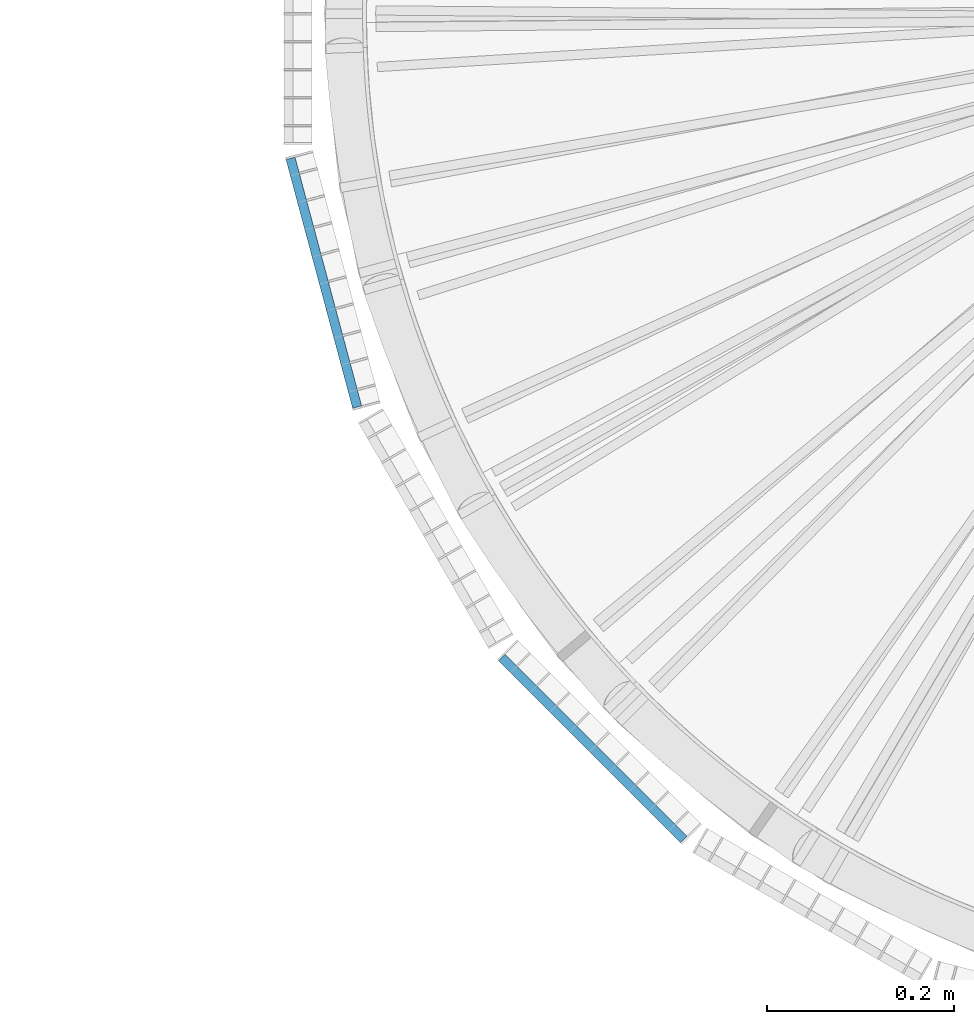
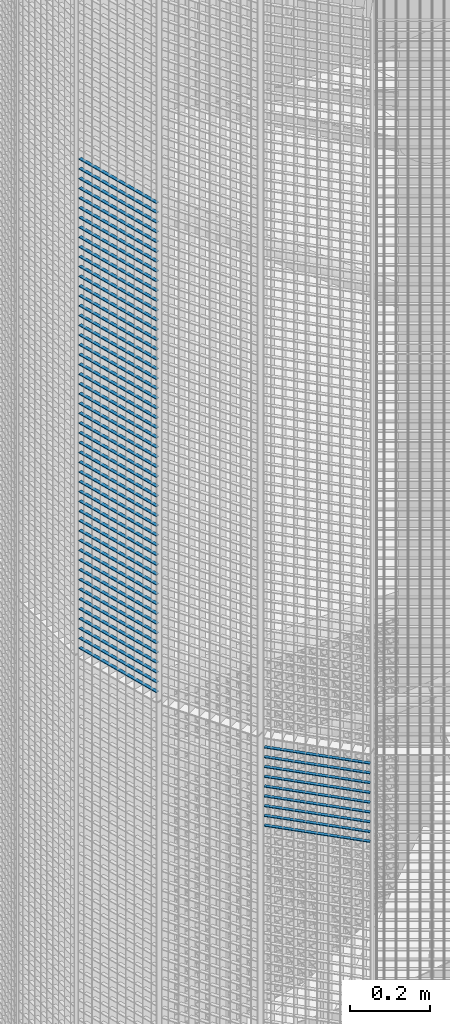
# One storey, part 117 of 1148: 60 beams, 2 elements without a shape of their own.
"""IFC2X3 building model written with IfcOpenShell, lengths in millimetres."""

from ifc_helpers import new_model, si_unit, frame, origin_with_axes, origin_2d_with_axis, place, context, subcontext, project, spatial, rectangle, extrude, material, type_object, element, aggregate, save


model = new_model("IFC2X3")

# Units and contexts
model_context = context("Model", 3, precision=1e-05, world=origin_with_axes())
body_context = subcontext(model_context, "Body", "Model", "MODEL_VIEW")
ifc_project = project(units=[si_unit("LENGTHUNIT", "METRE", prefix="MILLI"), si_unit("AREAUNIT", "SQUARE_METRE"), si_unit("VOLUMEUNIT", "CUBIC_METRE"), si_unit("MASSUNIT", "GRAM", prefix="KILO"), si_unit("TIMEUNIT", "SECOND"), si_unit("PLANEANGLEUNIT", "RADIAN"), si_unit("SOLIDANGLEUNIT", "STERADIAN"), si_unit("THERMODYNAMICTEMPERATUREUNIT", "DEGREE_CELSIUS"), si_unit("LUMINOUSINTENSITYUNIT", "LUMEN")], contexts=[model_context])

# Site, building, storey
site_placement = place(None, origin_with_axes())
site = spatial("IfcSite", under=ifc_project, at=site_placement, Name="Undefined", CompositionType="ELEMENT")
building_placement = place(site_placement, origin_with_axes())
building = spatial("IfcBuilding", under=site, at=building_placement, Name="Undefined", CompositionType="ELEMENT")
storey_placement = place(building_placement, origin_with_axes())
storey = spatial("IfcBuildingStorey", under=building, at=storey_placement, Name="Undefined", CompositionType="ELEMENT", Elevation=0.0)

# Assembly, beams
assembly_1_placement = place(storey_placement, origin_with_axes())
assembly_1 = element("IfcElementAssembly", 1, at=assembly_1_placement, inside=storey, Name="BORDURE", AssemblyPlace="NOTDEFINED", PredefinedType="NOTDEFINED")
ifc_material = material(Name="STEEL/S235JR")
beam_type = type_object("IfcBeamType", Name="PL2*10", PredefinedType="NOTDEFINED")
beam_1_placement = place(assembly_1_placement, frame((-1111.25508286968, -154.895926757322, 10530.0), z_axis=(-0.965925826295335, -0.258819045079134, 0.0), x_axis=(0.258819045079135, -0.965925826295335, 0.0)))
beam_1 = element("IfcBeam", 2, at=beam_1_placement, type_object=beam_type, material=ifc_material, Name="ENTRETOISE", context=body_context, shape_type="SweptSolid", body=[
    extrude(rectangle(XDim=2.0, YDim=10.0, at=origin_2d_with_axis()), frame((275.999999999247, 9.09494701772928e-13, 1.53210777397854e-14), z_axis=(-1.0, 0.0, 0.0), x_axis=(0.0, -1.0, 0.0)), (0.0, 0.0, 1.0), 276.0),
])
beam_2_placement = place(assembly_1_placement, frame((-1111.25508286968, -154.895926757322, 10500.0), z_axis=(-0.965925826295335, -0.258819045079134, 0.0), x_axis=(0.258819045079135, -0.965925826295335, 0.0)))
beam_2 = element("IfcBeam", 3, at=beam_2_placement, type_object=beam_type, material=ifc_material, Name="ENTRETOISE", context=body_context, shape_type="SweptSolid", body=[
    extrude(rectangle(XDim=2.0, YDim=10.0, at=origin_2d_with_axis()), frame((275.999999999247, 9.09494701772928e-13, 1.53210777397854e-14), z_axis=(-1.0, 0.0, 0.0), x_axis=(0.0, -1.0, 0.0)), (0.0, 0.0, 1.0), 276.0),
])
beam_3_placement = place(assembly_1_placement, frame((-1111.25508286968, -154.895926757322, 10470.0), z_axis=(-0.965925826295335, -0.258819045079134, 0.0), x_axis=(0.258819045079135, -0.965925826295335, 0.0)))
beam_3 = element("IfcBeam", 4, at=beam_3_placement, type_object=beam_type, material=ifc_material, Name="ENTRETOISE", context=body_context, shape_type="SweptSolid", body=[
    extrude(rectangle(XDim=2.0, YDim=10.0, at=origin_2d_with_axis()), frame((275.999999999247, 9.09494701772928e-13, 1.53210777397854e-14), z_axis=(-1.0, 0.0, 0.0), x_axis=(0.0, -1.0, 0.0)), (0.0, 0.0, 1.0), 276.0),
])
beam_4_placement = place(assembly_1_placement, frame((-1111.25508286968, -154.895926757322, 10440.0), z_axis=(-0.965925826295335, -0.258819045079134, 0.0), x_axis=(0.258819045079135, -0.965925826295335, 0.0)))
beam_4 = element("IfcBeam", 5, at=beam_4_placement, type_object=beam_type, material=ifc_material, Name="ENTRETOISE", context=body_context, shape_type="SweptSolid", body=[
    extrude(rectangle(XDim=2.0, YDim=10.0, at=origin_2d_with_axis()), frame((275.999999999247, 9.09494701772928e-13, 1.53210777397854e-14), z_axis=(-1.0, 0.0, 0.0), x_axis=(0.0, -1.0, 0.0)), (0.0, 0.0, 1.0), 276.0),
])
beam_5_placement = place(assembly_1_placement, frame((-1111.25508286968, -154.895926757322, 10410.0), z_axis=(-0.965925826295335, -0.258819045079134, 0.0), x_axis=(0.258819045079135, -0.965925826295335, 0.0)))
beam_5 = element("IfcBeam", 6, at=beam_5_placement, type_object=beam_type, material=ifc_material, Name="ENTRETOISE", context=body_context, shape_type="SweptSolid", body=[
    extrude(rectangle(XDim=2.0, YDim=10.0, at=origin_2d_with_axis()), frame((275.999999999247, 9.09494701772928e-13, 1.53210777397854e-14), z_axis=(-1.0, 0.0, 0.0), x_axis=(0.0, -1.0, 0.0)), (0.0, 0.0, 1.0), 276.0),
])
beam_6_placement = place(assembly_1_placement, frame((-1111.25508286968, -154.895926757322, 10380.0), z_axis=(-0.965925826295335, -0.258819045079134, 0.0), x_axis=(0.258819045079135, -0.965925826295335, 0.0)))
beam_6 = element("IfcBeam", 7, at=beam_6_placement, type_object=beam_type, material=ifc_material, Name="ENTRETOISE", context=body_context, shape_type="SweptSolid", body=[
    extrude(rectangle(XDim=2.0, YDim=10.0, at=origin_2d_with_axis()), frame((275.999999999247, 9.09494701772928e-13, 1.53210777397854e-14), z_axis=(-1.0, 0.0, 0.0), x_axis=(0.0, -1.0, 0.0)), (0.0, 0.0, 1.0), 276.0),
])
beam_7_placement = place(assembly_1_placement, frame((-1111.25508286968, -154.895926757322, 10350.0), z_axis=(-0.965925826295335, -0.258819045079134, 0.0), x_axis=(0.258819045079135, -0.965925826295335, 0.0)))
beam_7 = element("IfcBeam", 8, at=beam_7_placement, type_object=beam_type, material=ifc_material, Name="ENTRETOISE", context=body_context, shape_type="SweptSolid", body=[
    extrude(rectangle(XDim=2.0, YDim=10.0, at=origin_2d_with_axis()), frame((275.999999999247, 9.09494701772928e-13, 1.53210777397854e-14), z_axis=(-1.0, 0.0, 0.0), x_axis=(0.0, -1.0, 0.0)), (0.0, 0.0, 1.0), 276.0),
])
beam_8_placement = place(assembly_1_placement, frame((-1111.25508286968, -154.895926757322, 10320.0), z_axis=(-0.965925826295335, -0.258819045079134, 0.0), x_axis=(0.258819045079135, -0.965925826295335, 0.0)))
beam_8 = element("IfcBeam", 9, at=beam_8_placement, type_object=beam_type, material=ifc_material, Name="ENTRETOISE", context=body_context, shape_type="SweptSolid", body=[
    extrude(rectangle(XDim=2.0, YDim=10.0, at=origin_2d_with_axis()), frame((275.999999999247, 9.09494701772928e-13, 1.53210777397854e-14), z_axis=(-1.0, 0.0, 0.0), x_axis=(0.0, -1.0, 0.0)), (0.0, 0.0, 1.0), 276.0),
])
beam_9_placement = place(assembly_1_placement, frame((-1111.25508286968, -154.895926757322, 10290.0), z_axis=(-0.965925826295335, -0.258819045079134, 0.0), x_axis=(0.258819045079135, -0.965925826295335, 0.0)))
beam_9 = element("IfcBeam", 10, at=beam_9_placement, type_object=beam_type, material=ifc_material, Name="ENTRETOISE", context=body_context, shape_type="SweptSolid", body=[
    extrude(rectangle(XDim=2.0, YDim=10.0, at=origin_2d_with_axis()), frame((275.999999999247, 9.09494701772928e-13, 1.53210777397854e-14), z_axis=(-1.0, 0.0, 0.0), x_axis=(0.0, -1.0, 0.0)), (0.0, 0.0, 1.0), 276.0),
])
beam_10_placement = place(assembly_1_placement, frame((-1111.25508286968, -154.895926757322, 10260.0), z_axis=(-0.965925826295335, -0.258819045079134, 0.0), x_axis=(0.258819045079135, -0.965925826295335, 0.0)))
beam_10 = element("IfcBeam", 11, at=beam_10_placement, type_object=beam_type, material=ifc_material, Name="ENTRETOISE", context=body_context, shape_type="SweptSolid", body=[
    extrude(rectangle(XDim=2.0, YDim=10.0, at=origin_2d_with_axis()), frame((275.999999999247, 9.09494701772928e-13, 1.53210777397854e-14), z_axis=(-1.0, 0.0, 0.0), x_axis=(0.0, -1.0, 0.0)), (0.0, 0.0, 1.0), 276.0),
])
beam_11_placement = place(assembly_1_placement, frame((-1111.25508286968, -154.895926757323, 10230.0), z_axis=(-0.965925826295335, -0.258819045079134, 0.0), x_axis=(0.258819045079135, -0.965925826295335, 0.0)))
beam_11 = element("IfcBeam", 12, at=beam_11_placement, type_object=beam_type, material=ifc_material, Name="ENTRETOISE", context=body_context, shape_type="SweptSolid", body=[
    extrude(rectangle(XDim=2.0, YDim=10.0, at=origin_2d_with_axis()), frame((275.999999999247, 9.09494701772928e-13, 1.53210777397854e-14), z_axis=(-1.0, 0.0, 0.0), x_axis=(0.0, -1.0, 0.0)), (0.0, 0.0, 1.0), 276.0),
])
beam_12_placement = place(assembly_1_placement, frame((-1111.25508286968, -154.895926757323, 10200.0), z_axis=(-0.965925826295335, -0.258819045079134, 0.0), x_axis=(0.258819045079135, -0.965925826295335, 0.0)))
beam_12 = element("IfcBeam", 13, at=beam_12_placement, type_object=beam_type, material=ifc_material, Name="ENTRETOISE", context=body_context, shape_type="SweptSolid", body=[
    extrude(rectangle(XDim=2.0, YDim=10.0, at=origin_2d_with_axis()), frame((275.999999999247, 9.09494701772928e-13, 1.53210777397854e-14), z_axis=(-1.0, 0.0, 0.0), x_axis=(0.0, -1.0, 0.0)), (0.0, 0.0, 1.0), 276.0),
])
beam_13_placement = place(assembly_1_placement, frame((-1111.25508286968, -154.895926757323, 10170.0), z_axis=(-0.965925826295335, -0.258819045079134, 0.0), x_axis=(0.258819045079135, -0.965925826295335, 0.0)))
beam_13 = element("IfcBeam", 14, at=beam_13_placement, type_object=beam_type, material=ifc_material, Name="ENTRETOISE", context=body_context, shape_type="SweptSolid", body=[
    extrude(rectangle(XDim=2.0, YDim=10.0, at=origin_2d_with_axis()), frame((275.999999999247, 9.09494701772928e-13, 1.53210777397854e-14), z_axis=(-1.0, 0.0, 0.0), x_axis=(0.0, -1.0, 0.0)), (0.0, 0.0, 1.0), 276.0),
])
beam_14_placement = place(assembly_1_placement, frame((-1111.25508286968, -154.895926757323, 10140.0), z_axis=(-0.965925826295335, -0.258819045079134, 0.0), x_axis=(0.258819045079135, -0.965925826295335, 0.0)))
beam_14 = element("IfcBeam", 15, at=beam_14_placement, type_object=beam_type, material=ifc_material, Name="ENTRETOISE", context=body_context, shape_type="SweptSolid", body=[
    extrude(rectangle(XDim=2.0, YDim=10.0, at=origin_2d_with_axis()), frame((275.999999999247, 9.09494701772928e-13, 1.53210777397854e-14), z_axis=(-1.0, 0.0, 0.0), x_axis=(0.0, -1.0, 0.0)), (0.0, 0.0, 1.0), 276.0),
])
beam_15_placement = place(assembly_1_placement, frame((-1111.25508286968, -154.895926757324, 9720.0), z_axis=(-0.965925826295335, -0.258819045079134, 0.0), x_axis=(0.258819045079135, -0.965925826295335, 0.0)))
beam_15 = element("IfcBeam", 16, at=beam_15_placement, type_object=beam_type, material=ifc_material, Name="ENTRETOISE", context=body_context, shape_type="SweptSolid", body=[
    extrude(rectangle(XDim=2.0, YDim=10.0, at=origin_2d_with_axis()), frame((275.999999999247, 9.09494701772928e-13, 1.53210777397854e-14), z_axis=(-1.0, 0.0, 0.0), x_axis=(0.0, -1.0, 0.0)), (0.0, 0.0, 1.0), 276.0),
])
beam_16_placement = place(assembly_1_placement, frame((-1111.25508286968, -154.895926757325, 9690.0), z_axis=(-0.965925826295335, -0.258819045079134, 0.0), x_axis=(0.258819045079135, -0.965925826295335, 0.0)))
beam_16 = element("IfcBeam", 17, at=beam_16_placement, type_object=beam_type, material=ifc_material, Name="ENTRETOISE", context=body_context, shape_type="SweptSolid", body=[
    extrude(rectangle(XDim=2.0, YDim=10.0, at=origin_2d_with_axis()), frame((275.999999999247, 9.09494701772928e-13, 1.53210777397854e-14), z_axis=(-1.0, 0.0, 0.0), x_axis=(0.0, -1.0, 0.0)), (0.0, 0.0, 1.0), 276.0),
])
beam_17_placement = place(assembly_1_placement, frame((-1111.25508286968, -154.895926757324, 9750.0), z_axis=(-0.965925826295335, -0.258819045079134, 0.0), x_axis=(0.258819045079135, -0.965925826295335, 0.0)))
beam_17 = element("IfcBeam", 18, at=beam_17_placement, type_object=beam_type, material=ifc_material, Name="ENTRETOISE", context=body_context, shape_type="SweptSolid", body=[
    extrude(rectangle(XDim=2.0, YDim=10.0, at=origin_2d_with_axis()), frame((275.999999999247, 9.09494701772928e-13, 1.53210777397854e-14), z_axis=(-1.0, 0.0, 0.0), x_axis=(0.0, -1.0, 0.0)), (0.0, 0.0, 1.0), 276.0),
])
beam_18_placement = place(assembly_1_placement, frame((-1111.25508286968, -154.895926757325, 9660.0), z_axis=(-0.965925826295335, -0.258819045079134, 0.0), x_axis=(0.258819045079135, -0.965925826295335, 0.0)))
beam_18 = element("IfcBeam", 19, at=beam_18_placement, type_object=beam_type, material=ifc_material, Name="ENTRETOISE", context=body_context, shape_type="SweptSolid", body=[
    extrude(rectangle(XDim=2.0, YDim=10.0, at=origin_2d_with_axis()), frame((275.999999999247, 9.09494701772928e-13, 1.53210777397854e-14), z_axis=(-1.0, 0.0, 0.0), x_axis=(0.0, -1.0, 0.0)), (0.0, 0.0, 1.0), 276.0),
])
beam_19_placement = place(assembly_1_placement, frame((-1111.25508286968, -154.895926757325, 9630.0), z_axis=(-0.965925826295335, -0.258819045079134, 0.0), x_axis=(0.258819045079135, -0.965925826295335, 0.0)))
beam_19 = element("IfcBeam", 20, at=beam_19_placement, type_object=beam_type, material=ifc_material, Name="ENTRETOISE", context=body_context, shape_type="SweptSolid", body=[
    extrude(rectangle(XDim=2.0, YDim=10.0, at=origin_2d_with_axis()), frame((275.999999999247, 9.09494701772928e-13, 1.53210777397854e-14), z_axis=(-1.0, 0.0, 0.0), x_axis=(0.0, -1.0, 0.0)), (0.0, 0.0, 1.0), 276.0),
])
beam_20_placement = place(assembly_1_placement, frame((-1111.25508286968, -154.895926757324, 9780.0), z_axis=(-0.965925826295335, -0.258819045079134, 0.0), x_axis=(0.258819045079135, -0.965925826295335, 0.0)))
beam_20 = element("IfcBeam", 21, at=beam_20_placement, type_object=beam_type, material=ifc_material, Name="ENTRETOISE", context=body_context, shape_type="SweptSolid", body=[
    extrude(rectangle(XDim=2.0, YDim=10.0, at=origin_2d_with_axis()), frame((275.999999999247, 9.09494701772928e-13, 1.53210777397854e-14), z_axis=(-1.0, 0.0, 0.0), x_axis=(0.0, -1.0, 0.0)), (0.0, 0.0, 1.0), 276.0),
])
beam_21_placement = place(assembly_1_placement, frame((-1111.25508286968, -154.895926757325, 9600.0), z_axis=(-0.965925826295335, -0.258819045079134, 0.0), x_axis=(0.258819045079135, -0.965925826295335, 0.0)))
beam_21 = element("IfcBeam", 22, at=beam_21_placement, type_object=beam_type, material=ifc_material, Name="ENTRETOISE", context=body_context, shape_type="SweptSolid", body=[
    extrude(rectangle(XDim=2.0, YDim=10.0, at=origin_2d_with_axis()), frame((275.999999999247, 9.09494701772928e-13, 1.53210777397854e-14), z_axis=(-1.0, 0.0, 0.0), x_axis=(0.0, -1.0, 0.0)), (0.0, 0.0, 1.0), 276.0),
])
beam_22_placement = place(assembly_1_placement, frame((-1111.25508286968, -154.895926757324, 9810.0), z_axis=(-0.965925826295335, -0.258819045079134, 0.0), x_axis=(0.258819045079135, -0.965925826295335, 0.0)))
beam_22 = element("IfcBeam", 23, at=beam_22_placement, type_object=beam_type, material=ifc_material, Name="ENTRETOISE", context=body_context, shape_type="SweptSolid", body=[
    extrude(rectangle(XDim=2.0, YDim=10.0, at=origin_2d_with_axis()), frame((275.999999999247, 9.09494701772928e-13, 1.53210777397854e-14), z_axis=(-1.0, 0.0, 0.0), x_axis=(0.0, -1.0, 0.0)), (0.0, 0.0, 1.0), 276.0),
])
beam_23_placement = place(assembly_1_placement, frame((-1111.25508286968, -154.895926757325, 9570.0), z_axis=(-0.965925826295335, -0.258819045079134, 0.0), x_axis=(0.258819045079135, -0.965925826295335, 0.0)))
beam_23 = element("IfcBeam", 24, at=beam_23_placement, type_object=beam_type, material=ifc_material, Name="ENTRETOISE", context=body_context, shape_type="SweptSolid", body=[
    extrude(rectangle(XDim=2.0, YDim=10.0, at=origin_2d_with_axis()), frame((275.999999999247, 9.09494701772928e-13, 1.53210777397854e-14), z_axis=(-1.0, 0.0, 0.0), x_axis=(0.0, -1.0, 0.0)), (0.0, 0.0, 1.0), 276.0),
])
beam_24_placement = place(assembly_1_placement, frame((-1111.25508286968, -154.895926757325, 9540.0), z_axis=(-0.965925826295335, -0.258819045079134, 0.0), x_axis=(0.258819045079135, -0.965925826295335, 0.0)))
beam_24 = element("IfcBeam", 25, at=beam_24_placement, type_object=beam_type, material=ifc_material, Name="ENTRETOISE", context=body_context, shape_type="SweptSolid", body=[
    extrude(rectangle(XDim=2.0, YDim=10.0, at=origin_2d_with_axis()), frame((275.999999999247, 9.09494701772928e-13, 1.53210777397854e-14), z_axis=(-1.0, 0.0, 0.0), x_axis=(0.0, -1.0, 0.0)), (0.0, 0.0, 1.0), 276.0),
])
beam_25_placement = place(assembly_1_placement, frame((-1111.25508286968, -154.895926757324, 9840.0), z_axis=(-0.965925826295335, -0.258819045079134, 0.0), x_axis=(0.258819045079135, -0.965925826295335, 0.0)))
beam_25 = element("IfcBeam", 26, at=beam_25_placement, type_object=beam_type, material=ifc_material, Name="ENTRETOISE", context=body_context, shape_type="SweptSolid", body=[
    extrude(rectangle(XDim=2.0, YDim=10.0, at=origin_2d_with_axis()), frame((275.999999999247, 9.09494701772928e-13, 1.53210777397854e-14), z_axis=(-1.0, 0.0, 0.0), x_axis=(0.0, -1.0, 0.0)), (0.0, 0.0, 1.0), 276.0),
])
beam_26_placement = place(assembly_1_placement, frame((-1111.25508286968, -154.895926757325, 9510.0), z_axis=(-0.965925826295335, -0.258819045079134, 0.0), x_axis=(0.258819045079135, -0.965925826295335, 0.0)))
beam_26 = element("IfcBeam", 27, at=beam_26_placement, type_object=beam_type, material=ifc_material, Name="ENTRETOISE", context=body_context, shape_type="SweptSolid", body=[
    extrude(rectangle(XDim=2.0, YDim=10.0, at=origin_2d_with_axis()), frame((275.999999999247, 9.09494701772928e-13, 1.53210777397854e-14), z_axis=(-1.0, 0.0, 0.0), x_axis=(0.0, -1.0, 0.0)), (0.0, 0.0, 1.0), 276.0),
])
beam_27_placement = place(assembly_1_placement, frame((-1111.25508286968, -154.895926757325, 9480.0), z_axis=(-0.965925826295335, -0.258819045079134, 0.0), x_axis=(0.258819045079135, -0.965925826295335, 0.0)))
beam_27 = element("IfcBeam", 28, at=beam_27_placement, type_object=beam_type, material=ifc_material, Name="ENTRETOISE", context=body_context, shape_type="SweptSolid", body=[
    extrude(rectangle(XDim=2.0, YDim=10.0, at=origin_2d_with_axis()), frame((275.999999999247, 9.09494701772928e-13, 1.53210777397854e-14), z_axis=(-1.0, 0.0, 0.0), x_axis=(0.0, -1.0, 0.0)), (0.0, 0.0, 1.0), 276.0),
])
beam_28_placement = place(assembly_1_placement, frame((-1111.25508286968, -154.895926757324, 9870.0), z_axis=(-0.965925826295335, -0.258819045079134, 0.0), x_axis=(0.258819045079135, -0.965925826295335, 0.0)))
beam_28 = element("IfcBeam", 29, at=beam_28_placement, type_object=beam_type, material=ifc_material, Name="ENTRETOISE", context=body_context, shape_type="SweptSolid", body=[
    extrude(rectangle(XDim=2.0, YDim=10.0, at=origin_2d_with_axis()), frame((275.999999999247, 9.09494701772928e-13, 1.53210777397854e-14), z_axis=(-1.0, 0.0, 0.0), x_axis=(0.0, -1.0, 0.0)), (0.0, 0.0, 1.0), 276.0),
])
beam_29_placement = place(assembly_1_placement, frame((-1111.25508286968, -154.895926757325, 9450.0), z_axis=(-0.965925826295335, -0.258819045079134, 0.0), x_axis=(0.258819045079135, -0.965925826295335, 0.0)))
beam_29 = element("IfcBeam", 30, at=beam_29_placement, type_object=beam_type, material=ifc_material, Name="ENTRETOISE", context=body_context, shape_type="SweptSolid", body=[
    extrude(rectangle(XDim=2.0, YDim=10.0, at=origin_2d_with_axis()), frame((275.999999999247, 9.09494701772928e-13, 1.53210777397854e-14), z_axis=(-1.0, 0.0, 0.0), x_axis=(0.0, -1.0, 0.0)), (0.0, 0.0, 1.0), 276.0),
])
beam_30_placement = place(assembly_1_placement, frame((-1111.25508286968, -154.895926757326, 9420.0), z_axis=(-0.965925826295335, -0.258819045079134, 0.0), x_axis=(0.258819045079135, -0.965925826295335, 0.0)))
beam_30 = element("IfcBeam", 31, at=beam_30_placement, type_object=beam_type, material=ifc_material, Name="ENTRETOISE", context=body_context, shape_type="SweptSolid", body=[
    extrude(rectangle(XDim=2.0, YDim=10.0, at=origin_2d_with_axis()), frame((275.999999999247, 9.09494701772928e-13, 1.53210777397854e-14), z_axis=(-1.0, 0.0, 0.0), x_axis=(0.0, -1.0, 0.0)), (0.0, 0.0, 1.0), 276.0),
])
beam_31_placement = place(assembly_1_placement, frame((-1111.25508286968, -154.895926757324, 9900.0), z_axis=(-0.965925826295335, -0.258819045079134, 0.0), x_axis=(0.258819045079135, -0.965925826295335, 0.0)))
beam_31 = element("IfcBeam", 32, at=beam_31_placement, type_object=beam_type, material=ifc_material, Name="ENTRETOISE", context=body_context, shape_type="SweptSolid", body=[
    extrude(rectangle(XDim=2.0, YDim=10.0, at=origin_2d_with_axis()), frame((275.999999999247, 9.09494701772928e-13, 1.53210777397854e-14), z_axis=(-1.0, 0.0, 0.0), x_axis=(0.0, -1.0, 0.0)), (0.0, 0.0, 1.0), 276.0),
])
beam_32_placement = place(assembly_1_placement, frame((-1111.25508286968, -154.895926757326, 9390.0), z_axis=(-0.965925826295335, -0.258819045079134, 0.0), x_axis=(0.258819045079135, -0.965925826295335, 0.0)))
beam_32 = element("IfcBeam", 33, at=beam_32_placement, type_object=beam_type, material=ifc_material, Name="ENTRETOISE", context=body_context, shape_type="SweptSolid", body=[
    extrude(rectangle(XDim=2.0, YDim=10.0, at=origin_2d_with_axis()), frame((275.999999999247, 9.09494701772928e-13, 1.53210777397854e-14), z_axis=(-1.0, 0.0, 0.0), x_axis=(0.0, -1.0, 0.0)), (0.0, 0.0, 1.0), 276.0),
])
beam_33_placement = place(assembly_1_placement, frame((-1111.25508286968, -154.895926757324, 9930.0), z_axis=(-0.965925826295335, -0.258819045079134, 0.0), x_axis=(0.258819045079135, -0.965925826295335, 0.0)))
beam_33 = element("IfcBeam", 34, at=beam_33_placement, type_object=beam_type, material=ifc_material, Name="ENTRETOISE", context=body_context, shape_type="SweptSolid", body=[
    extrude(rectangle(XDim=2.0, YDim=10.0, at=origin_2d_with_axis()), frame((275.999999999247, 9.09494701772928e-13, 1.53210777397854e-14), z_axis=(-1.0, 0.0, 0.0), x_axis=(0.0, -1.0, 0.0)), (0.0, 0.0, 1.0), 276.0),
])
beam_34_placement = place(assembly_1_placement, frame((-1111.25508286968, -154.895926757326, 9360.0), z_axis=(-0.965925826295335, -0.258819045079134, 0.0), x_axis=(0.258819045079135, -0.965925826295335, 0.0)))
beam_34 = element("IfcBeam", 35, at=beam_34_placement, type_object=beam_type, material=ifc_material, Name="ENTRETOISE", context=body_context, shape_type="SweptSolid", body=[
    extrude(rectangle(XDim=2.0, YDim=10.0, at=origin_2d_with_axis()), frame((275.999999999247, 9.09494701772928e-13, 1.53210777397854e-14), z_axis=(-1.0, 0.0, 0.0), x_axis=(0.0, -1.0, 0.0)), (0.0, 0.0, 1.0), 276.0),
])
beam_35_placement = place(assembly_1_placement, frame((-1111.25508286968, -154.895926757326, 9330.0), z_axis=(-0.965925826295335, -0.258819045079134, 0.0), x_axis=(0.258819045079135, -0.965925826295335, 0.0)))
beam_35 = element("IfcBeam", 36, at=beam_35_placement, type_object=beam_type, material=ifc_material, Name="ENTRETOISE", context=body_context, shape_type="SweptSolid", body=[
    extrude(rectangle(XDim=2.0, YDim=10.0, at=origin_2d_with_axis()), frame((275.999999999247, 9.09494701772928e-13, 1.53210777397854e-14), z_axis=(-1.0, 0.0, 0.0), x_axis=(0.0, -1.0, 0.0)), (0.0, 0.0, 1.0), 276.0),
])
beam_36_placement = place(assembly_1_placement, frame((-1111.25508286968, -154.895926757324, 9960.0), z_axis=(-0.965925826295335, -0.258819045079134, 0.0), x_axis=(0.258819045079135, -0.965925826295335, 0.0)))
beam_36 = element("IfcBeam", 37, at=beam_36_placement, type_object=beam_type, material=ifc_material, Name="ENTRETOISE", context=body_context, shape_type="SweptSolid", body=[
    extrude(rectangle(XDim=2.0, YDim=10.0, at=origin_2d_with_axis()), frame((275.999999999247, 9.09494701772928e-13, 1.53210777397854e-14), z_axis=(-1.0, 0.0, 0.0), x_axis=(0.0, -1.0, 0.0)), (0.0, 0.0, 1.0), 276.0),
])
beam_37_placement = place(assembly_1_placement, frame((-1111.25508286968, -154.895926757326, 9300.0), z_axis=(-0.965925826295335, -0.258819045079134, 0.0), x_axis=(0.258819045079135, -0.965925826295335, 0.0)))
beam_37 = element("IfcBeam", 38, at=beam_37_placement, type_object=beam_type, material=ifc_material, Name="ENTRETOISE", context=body_context, shape_type="SweptSolid", body=[
    extrude(rectangle(XDim=2.0, YDim=10.0, at=origin_2d_with_axis()), frame((275.999999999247, 9.09494701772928e-13, 1.53210777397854e-14), z_axis=(-1.0, 0.0, 0.0), x_axis=(0.0, -1.0, 0.0)), (0.0, 0.0, 1.0), 276.0),
])
beam_38_placement = place(assembly_1_placement, frame((-1111.25508286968, -154.895926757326, 9270.0), z_axis=(-0.965925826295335, -0.258819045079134, 0.0), x_axis=(0.258819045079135, -0.965925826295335, 0.0)))
beam_38 = element("IfcBeam", 39, at=beam_38_placement, type_object=beam_type, material=ifc_material, Name="ENTRETOISE", context=body_context, shape_type="SweptSolid", body=[
    extrude(rectangle(XDim=2.0, YDim=10.0, at=origin_2d_with_axis()), frame((275.999999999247, 9.09494701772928e-13, 1.53210777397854e-14), z_axis=(-1.0, 0.0, 0.0), x_axis=(0.0, -1.0, 0.0)), (0.0, 0.0, 1.0), 276.0),
])
beam_39_placement = place(assembly_1_placement, frame((-1111.25508286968, -154.895926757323, 9990.0), z_axis=(-0.965925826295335, -0.258819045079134, 0.0), x_axis=(0.258819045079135, -0.965925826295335, 0.0)))
beam_39 = element("IfcBeam", 40, at=beam_39_placement, type_object=beam_type, material=ifc_material, Name="ENTRETOISE", context=body_context, shape_type="SweptSolid", body=[
    extrude(rectangle(XDim=2.0, YDim=10.0, at=origin_2d_with_axis()), frame((275.999999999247, 9.09494701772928e-13, 1.53210777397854e-14), z_axis=(-1.0, 0.0, 0.0), x_axis=(0.0, -1.0, 0.0)), (0.0, 0.0, 1.0), 276.0),
])
beam_40_placement = place(assembly_1_placement, frame((-1111.25508286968, -154.895926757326, 9240.0), z_axis=(-0.965925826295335, -0.258819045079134, 0.0), x_axis=(0.258819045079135, -0.965925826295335, 0.0)))
beam_40 = element("IfcBeam", 41, at=beam_40_placement, type_object=beam_type, material=ifc_material, Name="ENTRETOISE", context=body_context, shape_type="SweptSolid", body=[
    extrude(rectangle(XDim=2.0, YDim=10.0, at=origin_2d_with_axis()), frame((275.999999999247, 9.09494701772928e-13, 1.53210777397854e-14), z_axis=(-1.0, 0.0, 0.0), x_axis=(0.0, -1.0, 0.0)), (0.0, 0.0, 1.0), 276.0),
])
beam_41_placement = place(assembly_1_placement, frame((-1111.25508286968, -154.895926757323, 10020.0), z_axis=(-0.965925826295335, -0.258819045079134, 0.0), x_axis=(0.258819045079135, -0.965925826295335, 0.0)))
beam_41 = element("IfcBeam", 42, at=beam_41_placement, type_object=beam_type, material=ifc_material, Name="ENTRETOISE", context=body_context, shape_type="SweptSolid", body=[
    extrude(rectangle(XDim=2.0, YDim=10.0, at=origin_2d_with_axis()), frame((275.999999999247, 9.09494701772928e-13, 1.53210777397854e-14), z_axis=(-1.0, 0.0, 0.0), x_axis=(0.0, -1.0, 0.0)), (0.0, 0.0, 1.0), 276.0),
])
beam_42_placement = place(assembly_1_placement, frame((-1111.25508286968, -154.895926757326, 9210.0), z_axis=(-0.965925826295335, -0.258819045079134, 0.0), x_axis=(0.258819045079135, -0.965925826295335, 0.0)))
beam_42 = element("IfcBeam", 43, at=beam_42_placement, type_object=beam_type, material=ifc_material, Name="ENTRETOISE", context=body_context, shape_type="SweptSolid", body=[
    extrude(rectangle(XDim=2.0, YDim=10.0, at=origin_2d_with_axis()), frame((275.999999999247, 9.09494701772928e-13, 1.53210777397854e-14), z_axis=(-1.0, 0.0, 0.0), x_axis=(0.0, -1.0, 0.0)), (0.0, 0.0, 1.0), 276.0),
])
beam_43_placement = place(assembly_1_placement, frame((-1111.25508286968, -154.895926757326, 9180.0), z_axis=(-0.965925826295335, -0.258819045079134, 0.0), x_axis=(0.258819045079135, -0.965925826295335, 0.0)))
beam_43 = element("IfcBeam", 44, at=beam_43_placement, type_object=beam_type, material=ifc_material, Name="ENTRETOISE", context=body_context, shape_type="SweptSolid", body=[
    extrude(rectangle(XDim=2.0, YDim=10.0, at=origin_2d_with_axis()), frame((275.999999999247, 9.09494701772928e-13, 1.53210777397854e-14), z_axis=(-1.0, 0.0, 0.0), x_axis=(0.0, -1.0, 0.0)), (0.0, 0.0, 1.0), 276.0),
])
beam_44_placement = place(assembly_1_placement, frame((-1111.25508286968, -154.895926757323, 10050.0), z_axis=(-0.965925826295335, -0.258819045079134, 0.0), x_axis=(0.258819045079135, -0.965925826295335, 0.0)))
beam_44 = element("IfcBeam", 45, at=beam_44_placement, type_object=beam_type, material=ifc_material, Name="ENTRETOISE", context=body_context, shape_type="SweptSolid", body=[
    extrude(rectangle(XDim=2.0, YDim=10.0, at=origin_2d_with_axis()), frame((275.999999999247, 9.09494701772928e-13, 1.53210777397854e-14), z_axis=(-1.0, 0.0, 0.0), x_axis=(0.0, -1.0, 0.0)), (0.0, 0.0, 1.0), 276.0),
])
beam_45_placement = place(assembly_1_placement, frame((-1111.25508286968, -154.895926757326, 9150.0), z_axis=(-0.965925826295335, -0.258819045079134, 0.0), x_axis=(0.258819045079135, -0.965925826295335, 0.0)))
beam_45 = element("IfcBeam", 46, at=beam_45_placement, type_object=beam_type, material=ifc_material, Name="ENTRETOISE", context=body_context, shape_type="SweptSolid", body=[
    extrude(rectangle(XDim=2.0, YDim=10.0, at=origin_2d_with_axis()), frame((275.999999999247, 9.09494701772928e-13, 1.53210777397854e-14), z_axis=(-1.0, 0.0, 0.0), x_axis=(0.0, -1.0, 0.0)), (0.0, 0.0, 1.0), 276.0),
])
beam_46_placement = place(assembly_1_placement, frame((-1111.25508286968, -154.895926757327, 9120.0), z_axis=(-0.965925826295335, -0.258819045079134, 0.0), x_axis=(0.258819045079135, -0.965925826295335, 0.0)))
beam_46 = element("IfcBeam", 47, at=beam_46_placement, type_object=beam_type, material=ifc_material, Name="ENTRETOISE", context=body_context, shape_type="SweptSolid", body=[
    extrude(rectangle(XDim=2.0, YDim=10.0, at=origin_2d_with_axis()), frame((275.999999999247, 9.09494701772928e-13, 1.53210777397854e-14), z_axis=(-1.0, 0.0, 0.0), x_axis=(0.0, -1.0, 0.0)), (0.0, 0.0, 1.0), 276.0),
])
beam_47_placement = place(assembly_1_placement, frame((-1111.25508286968, -154.895926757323, 10080.0), z_axis=(-0.965925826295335, -0.258819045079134, 0.0), x_axis=(0.258819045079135, -0.965925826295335, 0.0)))
beam_47 = element("IfcBeam", 48, at=beam_47_placement, type_object=beam_type, material=ifc_material, Name="ENTRETOISE", context=body_context, shape_type="SweptSolid", body=[
    extrude(rectangle(XDim=2.0, YDim=10.0, at=origin_2d_with_axis()), frame((275.999999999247, 9.09494701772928e-13, 1.53210777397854e-14), z_axis=(-1.0, 0.0, 0.0), x_axis=(0.0, -1.0, 0.0)), (0.0, 0.0, 1.0), 276.0),
])
beam_48_placement = place(assembly_1_placement, frame((-1111.25508286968, -154.895926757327, 9090.0), z_axis=(-0.965925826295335, -0.258819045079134, 0.0), x_axis=(0.258819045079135, -0.965925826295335, 0.0)))
beam_48 = element("IfcBeam", 49, at=beam_48_placement, type_object=beam_type, material=ifc_material, Name="ENTRETOISE", context=body_context, shape_type="SweptSolid", body=[
    extrude(rectangle(XDim=2.0, YDim=10.0, at=origin_2d_with_axis()), frame((275.999999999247, 9.09494701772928e-13, 1.53210777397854e-14), z_axis=(-1.0, 0.0, 0.0), x_axis=(0.0, -1.0, 0.0)), (0.0, 0.0, 1.0), 276.0),
])
beam_49_placement = place(assembly_1_placement, frame((-1111.25508286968, -154.895926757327, 9060.0), z_axis=(-0.965925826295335, -0.258819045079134, 0.0), x_axis=(0.258819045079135, -0.965925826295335, 0.0)))
beam_49 = element("IfcBeam", 50, at=beam_49_placement, type_object=beam_type, material=ifc_material, Name="ENTRETOISE", context=body_context, shape_type="SweptSolid", body=[
    extrude(rectangle(XDim=2.0, YDim=10.0, at=origin_2d_with_axis()), frame((275.999999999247, 9.09494701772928e-13, 1.53210777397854e-14), z_axis=(-1.0, 0.0, 0.0), x_axis=(0.0, -1.0, 0.0)), (0.0, 0.0, 1.0), 276.0),
])
beam_50_placement = place(assembly_1_placement, frame((-1111.25508286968, -154.895926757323, 10110.0), z_axis=(-0.965925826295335, -0.258819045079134, 0.0), x_axis=(0.258819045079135, -0.965925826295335, 0.0)))
beam_50 = element("IfcBeam", 51, at=beam_50_placement, type_object=beam_type, material=ifc_material, Name="ENTRETOISE", context=body_context, shape_type="SweptSolid", body=[
    extrude(rectangle(XDim=2.0, YDim=10.0, at=origin_2d_with_axis()), frame((275.999999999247, 9.09494701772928e-13, 1.53210777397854e-14), z_axis=(-1.0, 0.0, 0.0), x_axis=(0.0, -1.0, 0.0)), (0.0, 0.0, 1.0), 276.0),
])
beam_51_placement = place(assembly_1_placement, frame((-1111.25508286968, -154.895926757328, 9030.0), z_axis=(-0.965925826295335, -0.258819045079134, 0.0), x_axis=(0.258819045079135, -0.965925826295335, 0.0)))
beam_51 = element("IfcBeam", 52, at=beam_51_placement, type_object=beam_type, material=ifc_material, Name="ENTRETOISE", context=body_context, shape_type="SweptSolid", body=[
    extrude(rectangle(XDim=2.0, YDim=10.0, at=origin_2d_with_axis()), frame((275.999999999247, 9.09494701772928e-13, 1.53210777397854e-14), z_axis=(-1.0, 0.0, 0.0), x_axis=(0.0, -1.0, 0.0)), (0.0, 0.0, 1.0), 276.0),
])
aggregate(assembly_1, [beam_1, beam_2, beam_3, beam_4, beam_5, beam_6, beam_7, beam_8, beam_9, beam_10, beam_11, beam_12, beam_13, beam_14, beam_15, beam_16, beam_17, beam_18, beam_19, beam_20, beam_21, beam_22, beam_23, beam_24, beam_25, beam_26, beam_27, beam_28, beam_29, beam_30, beam_31, beam_32, beam_33, beam_34, beam_35, beam_36, beam_37, beam_38, beam_39, beam_40, beam_41, beam_42, beam_43, beam_44, beam_45, beam_46, beam_47, beam_48, beam_49, beam_50, beam_51])

assembly_2_placement = place(storey_placement, origin_with_axes())
assembly_2 = element("IfcElementAssembly", 53, at=assembly_2_placement, inside=storey, Name="BORDURE", AssemblyPlace="NOTDEFINED", PredefinedType="NOTDEFINED")
beam_52_placement = place(assembly_2_placement, frame((-884.927168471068, -689.771348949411, 8970.0), z_axis=(-0.70710678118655, -0.707106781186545, 0.0), x_axis=(0.707106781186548, -0.707106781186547, 0.0)))
beam_52 = element("IfcBeam", 54, at=beam_52_placement, type_object=beam_type, material=ifc_material, Name="ENTRETOISE", context=body_context, shape_type="SweptSolid", body=[
    extrude(rectangle(XDim=2.0, YDim=10.0, at=origin_2d_with_axis()), frame((275.999999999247, 9.09494701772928e-13, 1.53210777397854e-14), z_axis=(-1.0, 0.0, 0.0), x_axis=(0.0, -1.0, 0.0)), (0.0, 0.0, 1.0), 276.0),
])
beam_53_placement = place(assembly_2_placement, frame((-884.927168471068, -689.771348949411, 8940.0), z_axis=(-0.70710678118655, -0.707106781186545, 0.0), x_axis=(0.707106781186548, -0.707106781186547, 0.0)))
beam_53 = element("IfcBeam", 55, at=beam_53_placement, type_object=beam_type, material=ifc_material, Name="ENTRETOISE", context=body_context, shape_type="SweptSolid", body=[
    extrude(rectangle(XDim=2.0, YDim=10.0, at=origin_2d_with_axis()), frame((275.999999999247, 9.09494701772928e-13, 1.53210777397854e-14), z_axis=(-1.0, 0.0, 0.0), x_axis=(0.0, -1.0, 0.0)), (0.0, 0.0, 1.0), 276.0),
])
beam_54_placement = place(assembly_2_placement, frame((-884.927168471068, -689.771348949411, 8910.0), z_axis=(-0.70710678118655, -0.707106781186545, 0.0), x_axis=(0.707106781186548, -0.707106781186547, 0.0)))
beam_54 = element("IfcBeam", 56, at=beam_54_placement, type_object=beam_type, material=ifc_material, Name="ENTRETOISE", context=body_context, shape_type="SweptSolid", body=[
    extrude(rectangle(XDim=2.0, YDim=10.0, at=origin_2d_with_axis()), frame((275.999999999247, 9.09494701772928e-13, 1.53210777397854e-14), z_axis=(-1.0, 0.0, 0.0), x_axis=(0.0, -1.0, 0.0)), (0.0, 0.0, 1.0), 276.0),
])
beam_55_placement = place(assembly_2_placement, frame((-884.927168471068, -689.771348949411, 8880.0), z_axis=(-0.70710678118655, -0.707106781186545, 0.0), x_axis=(0.707106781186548, -0.707106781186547, 0.0)))
beam_55 = element("IfcBeam", 57, at=beam_55_placement, type_object=beam_type, material=ifc_material, Name="ENTRETOISE", context=body_context, shape_type="SweptSolid", body=[
    extrude(rectangle(XDim=2.0, YDim=10.0, at=origin_2d_with_axis()), frame((275.999999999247, 9.09494701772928e-13, 1.53210777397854e-14), z_axis=(-1.0, 0.0, 0.0), x_axis=(0.0, -1.0, 0.0)), (0.0, 0.0, 1.0), 276.0),
])
beam_56_placement = place(assembly_2_placement, frame((-884.927168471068, -689.771348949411, 8850.0), z_axis=(-0.70710678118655, -0.707106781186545, 0.0), x_axis=(0.707106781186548, -0.707106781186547, 0.0)))
beam_56 = element("IfcBeam", 58, at=beam_56_placement, type_object=beam_type, material=ifc_material, Name="ENTRETOISE", context=body_context, shape_type="SweptSolid", body=[
    extrude(rectangle(XDim=2.0, YDim=10.0, at=origin_2d_with_axis()), frame((275.999999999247, 9.09494701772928e-13, 1.53210777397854e-14), z_axis=(-1.0, 0.0, 0.0), x_axis=(0.0, -1.0, 0.0)), (0.0, 0.0, 1.0), 276.0),
])
beam_57_placement = place(assembly_2_placement, frame((-884.927168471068, -689.771348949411, 8820.0), z_axis=(-0.70710678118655, -0.707106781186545, 0.0), x_axis=(0.707106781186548, -0.707106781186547, 0.0)))
beam_57 = element("IfcBeam", 59, at=beam_57_placement, type_object=beam_type, material=ifc_material, Name="ENTRETOISE", context=body_context, shape_type="SweptSolid", body=[
    extrude(rectangle(XDim=2.0, YDim=10.0, at=origin_2d_with_axis()), frame((275.999999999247, 9.09494701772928e-13, 1.53210777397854e-14), z_axis=(-1.0, 0.0, 0.0), x_axis=(0.0, -1.0, 0.0)), (0.0, 0.0, 1.0), 276.0),
])
beam_58_placement = place(assembly_2_placement, frame((-884.927168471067, -689.771348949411, 8790.0), z_axis=(-0.70710678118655, -0.707106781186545, 0.0), x_axis=(0.707106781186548, -0.707106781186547, 0.0)))
beam_58 = element("IfcBeam", 60, at=beam_58_placement, type_object=beam_type, material=ifc_material, Name="ENTRETOISE", context=body_context, shape_type="SweptSolid", body=[
    extrude(rectangle(XDim=2.0, YDim=10.0, at=origin_2d_with_axis()), frame((275.999999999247, 9.09494701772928e-13, 1.53210777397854e-14), z_axis=(-1.0, 0.0, 0.0), x_axis=(0.0, -1.0, 0.0)), (0.0, 0.0, 1.0), 276.0),
])
beam_59_placement = place(assembly_2_placement, frame((-884.927168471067, -689.771348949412, 8760.0), z_axis=(-0.70710678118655, -0.707106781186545, 0.0), x_axis=(0.707106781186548, -0.707106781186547, 0.0)))
beam_59 = element("IfcBeam", 61, at=beam_59_placement, type_object=beam_type, material=ifc_material, Name="ENTRETOISE", context=body_context, shape_type="SweptSolid", body=[
    extrude(rectangle(XDim=2.0, YDim=10.0, at=origin_2d_with_axis()), frame((275.999999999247, 9.09494701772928e-13, 1.53210777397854e-14), z_axis=(-1.0, 0.0, 0.0), x_axis=(0.0, -1.0, 0.0)), (0.0, 0.0, 1.0), 276.0),
])
beam_60_placement = place(assembly_2_placement, frame((-884.927168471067, -689.771348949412, 8730.0), z_axis=(-0.70710678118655, -0.707106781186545, 0.0), x_axis=(0.707106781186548, -0.707106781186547, 0.0)))
beam_60 = element("IfcBeam", 62, at=beam_60_placement, type_object=beam_type, material=ifc_material, Name="ENTRETOISE", context=body_context, shape_type="SweptSolid", body=[
    extrude(rectangle(XDim=2.0, YDim=10.0, at=origin_2d_with_axis()), frame((275.999999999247, 9.09494701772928e-13, 1.53210777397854e-14), z_axis=(-1.0, 0.0, 0.0), x_axis=(0.0, -1.0, 0.0)), (0.0, 0.0, 1.0), 276.0),
])
aggregate(assembly_2, [beam_52, beam_53, beam_54, beam_55, beam_56, beam_57, beam_58, beam_59, beam_60])

save(model, "model.ifc")
